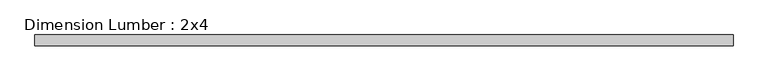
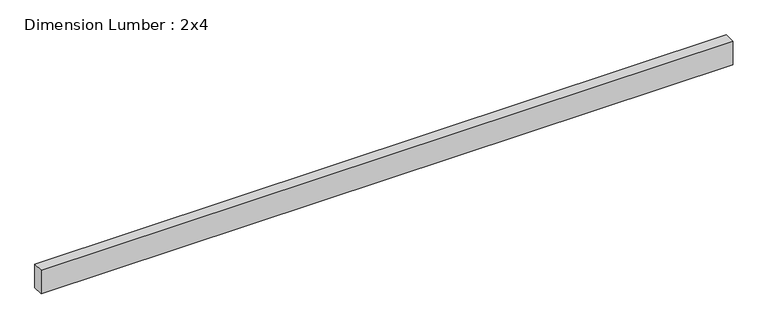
"""IFC4 building model written with IfcOpenShell, lengths in millimetres: beam geometry, Dimension Lumber : 2x4."""

from ifc_helpers import new_model, si_unit, frame, origin, place, context, project, spatial, polyline, outline, extrude, source, transform, mapped, element, save


def dimension_lumber_2x4_663c5fc9(model_context):
    return source(origin(), model_context, "Body", "SweptSolid", [
        extrude(outline(polyline([(1235.9299139, 19.05), (1235.9299139, -19.05), (-1235.9299139, -19.05), (-1235.9299139, 19.05), (1235.9299139, 19.05)])), frame((0.0, 0.0, -44.45), z_axis=(0.0, 0.0, 1.0), x_axis=(1.0, 0.0, 0.0)), (0.0, 0.0, 1.0), 88.9),
    ])


if __name__ == "__main__":
    model = new_model("IFC4")
    model_context = context("Model", 3, world=origin())
    ifc_project = project(units=[si_unit("LENGTHUNIT", "METRE", prefix="MILLI")], contexts=[model_context])
    site = spatial("IfcSite", under=ifc_project)
    building = spatial("IfcBuilding", under=site)
    placement = place(None, origin())
    dimension_lumber_2x4_shape = dimension_lumber_2x4_663c5fc9(model_context)
    element("IfcBeam", 1, ObjectType="Dimension Lumber : 2x4", at=placement, inside=building, context=model_context, shape_type="MappedRepresentation", body=[
        mapped(dimension_lumber_2x4_shape, transform((0.0, 0.0, 0.0), x_axis=(1.0, 0.0, 0.0), y_axis=(0.0, 1.0, 0.0), z_axis=(0.0, 0.0, 1.0))),
    ])
    save(model, "model.ifc")
